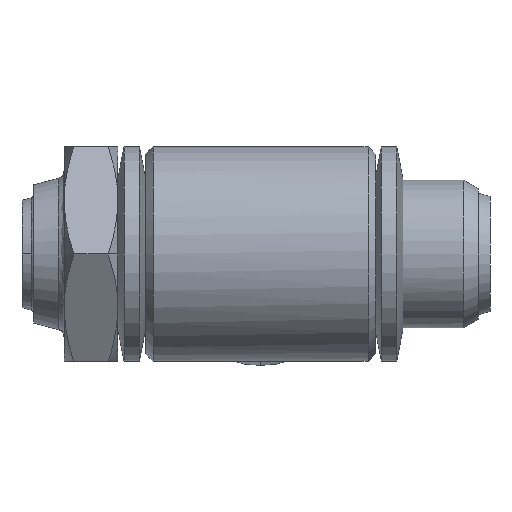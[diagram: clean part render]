
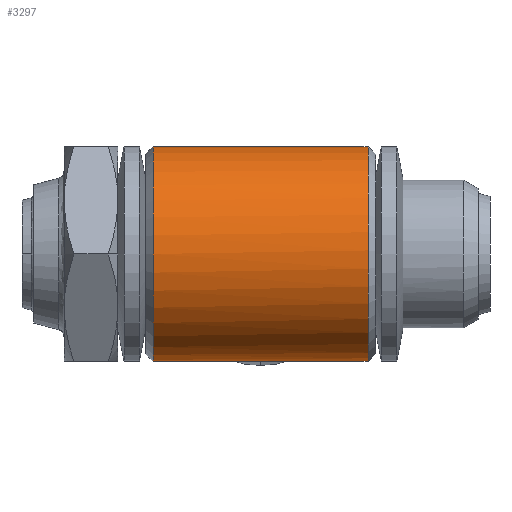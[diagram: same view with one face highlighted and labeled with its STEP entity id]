
A CAD part, left-side view. The second image highlights one B-rep face of the part: STEP entity #3297.
In plain terms, the highlighted cylindrical face has radius 7.021 mm (diameter 14.042 mm), a partial arc.
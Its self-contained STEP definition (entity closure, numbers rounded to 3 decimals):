
#617 = AXIS2_PLACEMENT_3D ( 'NONE', #6193, #6219, #6242 ) ;
#770 = CARTESIAN_POINT ( 'NONE',  ( -0.013, 21.969, 0.001 ) ) ;
#831 = EDGE_CURVE ( 'NONE', #4707, #2809, #1436, .T. ) ;
#1005 = ORIENTED_EDGE ( 'NONE', *, *, #6356, .T. ) ;
#1126 = VECTOR ( 'NONE', #6181, 1000. ) ;
#1284 = DIRECTION ( 'NONE',  ( 0., 0., -1. ) ) ;
#1311 = ORIENTED_EDGE ( 'NONE', *, *, #3859, .F. ) ;
#1436 = CIRCLE ( 'NONE', #617, 7.021 ) ;
#1607 = AXIS2_PLACEMENT_3D ( 'NONE', #5634, #3645, #2665 ) ;
#1861 = DIRECTION ( 'NONE',  ( 0., 1., 0. ) ) ;
#1943 = EDGE_CURVE ( 'NONE', #6454, #2203, #4231, .T. ) ;
#2189 = CARTESIAN_POINT ( 'NONE',  ( -0.013, 21.969, 7.022 ) ) ;
#2203 = VERTEX_POINT ( 'NONE', #4644 ) ;
#2264 = CARTESIAN_POINT ( 'NONE',  ( -0.473, 7.927, -7.005 ) ) ;
#2311 = CARTESIAN_POINT ( 'NONE',  ( -0.013, 7.927, -7.02 ) ) ;
#2342 = AXIS2_PLACEMENT_3D ( 'NONE', #4757, #1861, #5270 ) ;
#2352 = EDGE_CURVE ( 'NONE', #4792, #4707, #2445, .T. ) ;
#2445 = CIRCLE ( 'NONE', #2342, 7.021 ) ;
#2479 = VECTOR ( 'NONE', #5627, 1000. ) ;
#2664 = EDGE_LOOP ( 'NONE', ( #1311, #3792, #1005, #2808, #4395 ) ) ;
#2665 = DIRECTION ( 'NONE',  ( 0., 0., -1. ) ) ;
#2733 = CARTESIAN_POINT ( 'NONE',  ( -0.013, 7.927, 7.022 ) ) ;
#2808 = ORIENTED_EDGE ( 'NONE', *, *, #2352, .T. ) ;
#2809 = VERTEX_POINT ( 'NONE', #2733 ) ;
#3297 = ADVANCED_FACE ( 'NONE', ( #4923 ), #3310, .T. ) ;
#3310 = CYLINDRICAL_SURFACE ( 'NONE', #1607, 7.021 ) ;
#3645 = DIRECTION ( 'NONE',  ( 0., -1., 0. ) ) ;
#3739 = LINE ( 'NONE', #5121, #2479 ) ;
#3792 = ORIENTED_EDGE ( 'NONE', *, *, #1943, .T. ) ;
#3859 = EDGE_CURVE ( 'NONE', #6454, #2809, #6425, .T. ) ;
#4206 = DIRECTION ( 'NONE',  ( 0., -1., 0. ) ) ;
#4231 = CIRCLE ( 'NONE', #5520, 7.021 ) ;
#4395 = ORIENTED_EDGE ( 'NONE', *, *, #831, .T. ) ;
#4644 = CARTESIAN_POINT ( 'NONE',  ( -0.013, 21.969, -7.02 ) ) ;
#4707 = VERTEX_POINT ( 'NONE', #2264 ) ;
#4757 = CARTESIAN_POINT ( 'NONE',  ( -0.013, 7.927, 0.001 ) ) ;
#4792 = VERTEX_POINT ( 'NONE', #2311 ) ;
#4923 = FACE_OUTER_BOUND ( 'NONE', #2664, .T. ) ;
#5121 = CARTESIAN_POINT ( 'NONE',  ( -0.013, 6.422, -7.02 ) ) ;
#5270 = DIRECTION ( 'NONE',  ( 0., 0., -1. ) ) ;
#5520 = AXIS2_PLACEMENT_3D ( 'NONE', #770, #4206, #1284 ) ;
#5627 = DIRECTION ( 'NONE',  ( 0., -1., 0. ) ) ;
#5634 = CARTESIAN_POINT ( 'NONE',  ( -0.013, 6.422, 0.001 ) ) ;
#5670 = CARTESIAN_POINT ( 'NONE',  ( -0.013, 6.422, 7.022 ) ) ;
#6181 = DIRECTION ( 'NONE',  ( 0., -1., 0. ) ) ;
#6193 = CARTESIAN_POINT ( 'NONE',  ( -0.013, 7.927, 0.001 ) ) ;
#6219 = DIRECTION ( 'NONE',  ( 0., 1., 0. ) ) ;
#6242 = DIRECTION ( 'NONE',  ( 0., 0., -1. ) ) ;
#6356 = EDGE_CURVE ( 'NONE', #2203, #4792, #3739, .T. ) ;
#6425 = LINE ( 'NONE', #5670, #1126 ) ;
#6454 = VERTEX_POINT ( 'NONE', #2189 ) ;
